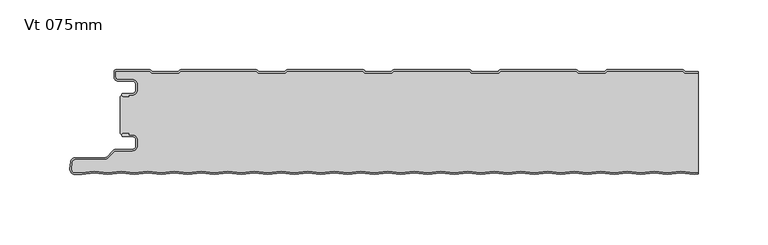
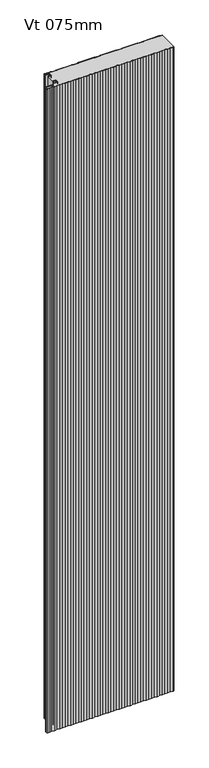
"""IFC4 building model written with IfcOpenShell, lengths in millimetres: plate geometry, KIP-MEX-KSS-1067-R19-CP-Vt-MR_SL : Vt 075mm."""

from ifc_helpers import new_model, si_unit, point, frame, frame_2d, origin, origin_with_axes, place, context, project, spatial, polyline, circle_curve, trimmed, segment, composite_curve, outline, extrude, source, transform, mapped, element, save
from ifc_brep_helpers import plane_surface, cylinder_surface, revolved_surface, advanced_brep


def vt_075mm_0a597b58(model_context):
    return source(origin(), model_context, "Body", "SolidModel", [
        advanced_brep(
        [(-204.468691, -17.0015159, 2400.0), (-205.4686883, -18.0015191, 2400.0), (-204.468691, -19.0015105, 2400.0), (-200.4684874, -19.0015105, 2400.0), (-200.4684874, -18.0015159, 2400.0), (-197.7762776, -18.0015159, 2400.0), (-194.4762819, -14.7015202, 2400.0), (-194.4762819, -10.301529, 2400.0), (-197.7762774, -7.0015335, 2400.0), (-208.1962563, -7.0015335, 2400.0), (-209.9662505, -5.2315393, 2400.0), (-209.9662505, -0.9999916, 2400.0), (-185.4659738, -0.9999916, 2400.0), (-184.0803312, -2.2002307, 2400.0), (-164.7051649, -2.2002307, 2400.0), (-163.319532, -1.0, 2400.0), (-109.2661166, -1.0, 2400.0), (-107.8804836, -2.2002307, 2400.0), (-88.5053173, -2.2002307, 2400.0), (-87.1196844, -1.0, 2400.0), (-33.066269, -1.0, 2400.0), (-31.680636, -2.2002307, 2400.0), (-12.3054697, -2.2002307, 2400.0), (-10.9198368, -1.0, 2400.0), (43.1335786, -1.0, 2400.0), (44.5192116, -2.2002307, 2400.0), (63.8943779, -2.2002307, 2400.0), (65.2800108, -1.0, 2400.0), (119.3334262, -1.0, 2400.0), (120.7190592, -2.2002307, 2400.0), (140.0942255, -2.2002307, 2400.0), (141.4798584, -1.0, 2400.0), (195.5332738, -1.0, 2400.0), (196.9189068, -2.2002307, 2400.0), (206.4999998, -2.2002307, 2400.0), (206.4999998, -1.2002307, 2400.0), (197.2917872, -1.2002307, 2400.0), (196.3007396, -0.3417885, 2400.0), (195.3841227, 0.0, 2400.0), (141.6290096, 0.0, 2400.0), (140.7123927, -0.3417885, 2400.0), (139.7213451, -1.2002307, 2400.0), (121.0919396, -1.2002307, 2400.0), (120.100892, -0.3417885, 2400.0), (119.1842751, 0.0, 2400.0), (65.429162, 0.0, 2400.0), (64.5125451, -0.3417885, 2400.0), (63.5214975, -1.2002307, 2400.0), (44.892092, -1.2002307, 2400.0), (43.9010444, -0.3417885, 2400.0), (42.9844275, 0.0, 2400.0), (-10.7706856, 0.0, 2400.0), (-11.6873025, -0.3417885, 2400.0), (-12.6783501, -1.2002307, 2400.0), (-31.3077556, -1.2002307, 2400.0), (-32.2988032, -0.3417885, 2400.0), (-33.2154201, 0.0, 2400.0), (-86.9705332, 0.0, 2400.0), (-87.8871501, -0.3417885, 2400.0), (-88.8781977, -1.2002307, 2400.0), (-107.5076032, -1.2002307, 2400.0), (-108.4986508, -0.3417885, 2400.0), (-109.4152677, 0.0, 2400.0), (-163.1703808, 0.0, 2400.0), (-164.0869977, -0.3417885, 2400.0), (-165.0780453, -1.2002307, 2400.0), (-183.7074508, -1.2002307, 2400.0), (-184.6984984, -0.3417885, 2400.0), (-185.6152067, 0.0, 2400.0), (-209.5662543, 8.4e-06, 2400.0), (-210.9662505, -1.3999878, 2400.0), (-210.9662505, -5.2315393, 2400.0), (-208.1962563, -8.0015335, 2400.0), (-197.7762774, -8.0015335, 2400.0), (-195.4762819, -10.301529, 2400.0), (-195.4762819, -14.7015202, 2400.0), (-197.7762776, -17.0015159, 2400.0), (-204.468691, -17.0015159, 0.0), (-197.7762776, -17.0015159, 0.0), (-195.4762819, -14.7015202, 0.0), (-195.4762819, -10.301529, 0.0), (-197.7762774, -8.0015335, 0.0), (-208.1962563, -8.0015335, 0.0), (-210.9662505, -5.2315393, 0.0), (-210.9662505, -1.3999878, 0.0), (-209.5662543, 8.4e-06, 0.0), (-185.6151153, 8.4e-06, 0.0), (-184.6984984, -0.3417885, 0.0), (-183.7074508, -1.2002307, 0.0), (-165.0780453, -1.2002307, 0.0), (-164.0869977, -0.3417885, 0.0), (-163.1703808, 0.0, 0.0), (-109.4152677, 0.0, 0.0), (-108.4986508, -0.3417885, 0.0), (-107.5076032, -1.2002307, 0.0), (-88.8781977, -1.2002307, 0.0), (-87.8871501, -0.3417885, 0.0), (-86.9705332, 0.0, 0.0), (-33.2154201, 0.0, 0.0), (-32.2988032, -0.3417885, 0.0), (-31.3077556, -1.2002307, 0.0), (-12.6783501, -1.2002307, 0.0), (-11.6873025, -0.3417885, 0.0), (-10.7706856, 0.0, 0.0), (42.9844275, 0.0, 0.0), (43.9010444, -0.3417885, 0.0), (44.892092, -1.2002307, 0.0), (63.5214975, -1.2002307, 0.0), (64.5125451, -0.3417885, 0.0), (65.429162, 0.0, 0.0), (119.1842751, 0.0, 0.0), (120.100892, -0.3417885, 0.0), (121.0919396, -1.2002307, 0.0), (139.7213451, -1.2002307, 0.0), (140.7123927, -0.3417885, 0.0), (141.6290096, 0.0, 0.0), (195.3841227, 0.0, 0.0), (196.3007396, -0.3417885, 0.0), (197.2917872, -1.2002307, 0.0), (206.4999998, -1.2002307, 0.0), (206.4999998, -2.2002307, 0.0), (196.9189068, -2.2002307, 0.0), (195.5332738, -1.0, 0.0), (141.4798584, -1.0, 0.0), (140.0942255, -2.2002307, 0.0), (120.7190592, -2.2002307, 0.0), (119.3334262, -1.0, 0.0), (65.2800108, -1.0, 0.0), (63.8943779, -2.2002307, 0.0), (44.5192116, -2.2002307, 0.0), (43.1335786, -1.0, 0.0), (-10.9198368, -1.0, 0.0), (-12.3054697, -2.2002307, 0.0), (-31.680636, -2.2002307, 0.0), (-33.066269, -1.0, 0.0), (-87.1196844, -1.0, 0.0), (-88.5053173, -2.2002307, 0.0), (-107.8804836, -2.2002307, 0.0), (-109.2661166, -1.0, 0.0), (-163.319532, -1.0, 0.0), (-164.7051649, -2.2002307, 0.0), (-184.0803312, -2.2002307, 0.0), (-185.4659738, -0.9999916, 0.0), (-209.9662505, -0.9999916, 0.0), (-209.9662505, -5.2315393, 0.0), (-208.1962563, -7.0015335, 0.0), (-197.7762774, -7.0015335, 0.0), (-194.4762819, -10.301529, 0.0), (-194.4762819, -14.7015202, 0.0), (-197.7762776, -18.0015159, 0.0), (-200.4684874, -18.0015159, 0.0), (-200.4684874, -19.0015105, 0.0), (-204.468691, -19.0015105, 0.0), (-205.4686882, -18.0015192, 0.0)],
        [
            (0, 1, circle_curve(frame((-204.468691, -18.0015132, 2400.0), z_axis=(0.0, 0.0, 1.0), x_axis=(1.0, 0.0, 0.0)), 0.9999973)),
            (1, 2, circle_curve(frame((-204.468691, -18.0015133, 2400.0), z_axis=(0.0, 0.0, 1.0), x_axis=(1.0, 0.0, 0.0)), 0.9999972)),
            (2, 3),
            (3, 4),
            (4, 5),
            (5, 6, circle_curve(frame((-197.7762776, -14.7015202, 2400.0), z_axis=(0.0, 0.0, 1.0), x_axis=(1.0, 0.0, 0.0)), 3.2999957)),
            (6, 7),
            (7, 8, circle_curve(frame((-197.7762774, -10.301529, 2400.0), z_axis=(0.0, 0.0, 1.0), x_axis=(1.0, 0.0, 0.0)), 3.2999955)),
            (8, 9),
            (9, 10, circle_curve(frame((-208.1962563, -5.2315393, 2400.0), z_axis=(0.0, 0.0, -1.0), x_axis=(1.0, 0.0, 0.0)), 1.7699942)),
            (10, 11),
            (11, 12),
            (12, 13),
            (13, 14),
            (14, 15),
            (15, 16),
            (16, 17),
            (17, 18),
            (18, 19),
            (19, 20),
            (20, 21),
            (21, 22),
            (22, 23),
            (23, 24),
            (24, 25),
            (25, 26),
            (26, 27),
            (27, 28),
            (28, 29),
            (29, 30),
            (30, 31),
            (31, 32),
            (32, 33),
            (33, 34),
            (34, 35),
            (35, 36),
            (36, 37),
            (37, 38, circle_curve(frame((195.3841227, -1.3999972, 2400.0), z_axis=(0.0, 0.0, 1.0), x_axis=(1.0, 0.0, 0.0)), 1.3999972)),
            (38, 39),
            (39, 40, circle_curve(frame((141.6290096, -1.3999972, 2400.0), z_axis=(0.0, 0.0, 1.0), x_axis=(1.0, 0.0, 0.0)), 1.3999972)),
            (40, 41),
            (41, 42),
            (42, 43),
            (43, 44, circle_curve(frame((119.1842751, -1.3999972, 2400.0), z_axis=(0.0, 0.0, 1.0), x_axis=(1.0, 0.0, 0.0)), 1.3999972)),
            (44, 45),
            (45, 46, circle_curve(frame((65.429162, -1.3999972, 2400.0), z_axis=(0.0, 0.0, 1.0), x_axis=(1.0, 0.0, 0.0)), 1.3999972)),
            (46, 47),
            (47, 48),
            (48, 49),
            (49, 50, circle_curve(frame((42.9844275, -1.3999972, 2400.0), z_axis=(0.0, 0.0, 1.0), x_axis=(1.0, 0.0, 0.0)), 1.3999972)),
            (50, 51),
            (51, 52, circle_curve(frame((-10.7706856, -1.3999972, 2400.0), z_axis=(0.0, 0.0, 1.0), x_axis=(1.0, 0.0, 0.0)), 1.3999972)),
            (52, 53),
            (53, 54),
            (54, 55),
            (55, 56, circle_curve(frame((-33.2154201, -1.3999972, 2400.0), z_axis=(0.0, 0.0, 1.0), x_axis=(1.0, 0.0, 0.0)), 1.3999972)),
            (56, 57),
            (57, 58, circle_curve(frame((-86.9705332, -1.3999972, 2400.0), z_axis=(0.0, 0.0, 1.0), x_axis=(1.0, 0.0, 0.0)), 1.3999972)),
            (58, 59),
            (59, 60),
            (60, 61),
            (61, 62, circle_curve(frame((-109.4152677, -1.3999972, 2400.0), z_axis=(0.0, 0.0, 1.0), x_axis=(1.0, 0.0, 0.0)), 1.3999972)),
            (62, 63),
            (63, 64, circle_curve(frame((-163.1703808, -1.3999972, 2400.0), z_axis=(0.0, 0.0, 1.0), x_axis=(1.0, 0.0, 0.0)), 1.3999972)),
            (64, 65),
            (65, 66),
            (66, 67),
            (67, 68, circle_curve(frame((-185.6151153, -1.3999972, 2400.0), z_axis=(0.0, 0.0, 1.0), x_axis=(1.0, 0.0, 0.0)), 1.3999972)),
            (68, 69),
            (69, 70, circle_curve(frame((-209.5662543, -1.3999878, 2400.0), z_axis=(0.0, 0.0, 1.0), x_axis=(1.0, 0.0, 0.0)), 1.3999962)),
            (70, 71),
            (71, 72, circle_curve(frame((-208.1962563, -5.2315393, 2400.0), z_axis=(0.0, 0.0, 1.0), x_axis=(1.0, 0.0, 0.0)), 2.7699942)),
            (72, 73),
            (73, 74, circle_curve(frame((-197.7762774, -10.301529, 2400.0), z_axis=(0.0, 0.0, -1.0), x_axis=(1.0, 0.0, 0.0)), 2.2999955)),
            (74, 75),
            (75, 76, circle_curve(frame((-197.7762776, -14.7015202, 2400.0), z_axis=(0.0, 0.0, -1.0), x_axis=(1.0, 0.0, 0.0)), 2.2999957)),
            (76, 0),
            (77, 78),
            (78, 79, circle_curve(frame((-197.7762776, -14.7015202, 0.0), z_axis=(0.0, 0.0, 1.0), x_axis=(1.0, 0.0, 0.0)), 2.2999957)),
            (79, 80),
            (80, 81, circle_curve(frame((-197.7762774, -10.301529, 0.0), z_axis=(0.0, 0.0, 1.0), x_axis=(1.0, 0.0, 0.0)), 2.2999955)),
            (81, 82),
            (82, 83, circle_curve(frame((-208.1962563, -5.2315393, 0.0), z_axis=(0.0, 0.0, -1.0), x_axis=(1.0, 0.0, 0.0)), 2.7699942)),
            (83, 84),
            (84, 85, circle_curve(frame((-209.5662543, -1.3999878, 0.0), z_axis=(0.0, 0.0, -1.0), x_axis=(1.0, 0.0, 0.0)), 1.3999962)),
            (85, 86),
            (86, 87, circle_curve(frame((-185.6151153, -1.3999972, 0.0), z_axis=(0.0, 0.0, -1.0), x_axis=(1.0, 0.0, 0.0)), 1.3999972)),
            (87, 88),
            (88, 89),
            (89, 90),
            (90, 91, circle_curve(frame((-163.1703808, -1.3999972, 0.0), z_axis=(0.0, 0.0, -1.0), x_axis=(1.0, 0.0, 0.0)), 1.3999972)),
            (91, 92),
            (92, 93, circle_curve(frame((-109.4152677, -1.3999972, 0.0), z_axis=(0.0, 0.0, -1.0), x_axis=(1.0, 0.0, 0.0)), 1.3999972)),
            (93, 94),
            (94, 95),
            (95, 96),
            (96, 97, circle_curve(frame((-86.9705332, -1.3999972, 0.0), z_axis=(0.0, 0.0, -1.0), x_axis=(1.0, 0.0, 0.0)), 1.3999972)),
            (97, 98),
            (98, 99, circle_curve(frame((-33.2154201, -1.3999972, 0.0), z_axis=(0.0, 0.0, -1.0), x_axis=(1.0, 0.0, 0.0)), 1.3999972)),
            (99, 100),
            (100, 101),
            (101, 102),
            (102, 103, circle_curve(frame((-10.7706856, -1.3999972, 0.0), z_axis=(0.0, 0.0, -1.0), x_axis=(1.0, 0.0, 0.0)), 1.3999972)),
            (103, 104),
            (104, 105, circle_curve(frame((42.9844275, -1.3999972, 0.0), z_axis=(0.0, 0.0, -1.0), x_axis=(1.0, 0.0, 0.0)), 1.3999972)),
            (105, 106),
            (106, 107),
            (107, 108),
            (108, 109, circle_curve(frame((65.429162, -1.3999972, 0.0), z_axis=(0.0, 0.0, -1.0), x_axis=(1.0, 0.0, 0.0)), 1.3999972)),
            (109, 110),
            (110, 111, circle_curve(frame((119.1842751, -1.3999972, 0.0), z_axis=(0.0, 0.0, -1.0), x_axis=(1.0, 0.0, 0.0)), 1.3999972)),
            (111, 112),
            (112, 113),
            (113, 114),
            (114, 115, circle_curve(frame((141.6290096, -1.3999972, 0.0), z_axis=(0.0, 0.0, -1.0), x_axis=(1.0, 0.0, 0.0)), 1.3999972)),
            (115, 116),
            (116, 117, circle_curve(frame((195.3841227, -1.3999972, 0.0), z_axis=(0.0, 0.0, -1.0), x_axis=(1.0, 0.0, 0.0)), 1.3999972)),
            (117, 118),
            (118, 119),
            (119, 120),
            (120, 121),
            (121, 122),
            (122, 123),
            (123, 124),
            (124, 125),
            (125, 126),
            (126, 127),
            (127, 128),
            (128, 129),
            (129, 130),
            (130, 131),
            (131, 132),
            (132, 133),
            (133, 134),
            (134, 135),
            (135, 136),
            (136, 137),
            (137, 138),
            (138, 139),
            (139, 140),
            (140, 141),
            (141, 142),
            (142, 143),
            (143, 144),
            (144, 145, circle_curve(frame((-208.1962563, -5.2315393, 0.0), z_axis=(0.0, 0.0, 1.0), x_axis=(1.0, 0.0, 0.0)), 1.7699942)),
            (145, 146),
            (146, 147, circle_curve(frame((-197.7762774, -10.301529, 0.0), z_axis=(0.0, 0.0, -1.0), x_axis=(1.0, 0.0, 0.0)), 3.2999955)),
            (147, 148),
            (148, 149, circle_curve(frame((-197.7762776, -14.7015202, 0.0), z_axis=(0.0, 0.0, -1.0), x_axis=(1.0, 0.0, 0.0)), 3.2999957)),
            (149, 150),
            (150, 151),
            (151, 152),
            (152, 153, circle_curve(frame((-204.468691, -18.0015133, 0.0), z_axis=(0.0, 0.0, -1.0), x_axis=(1.0, 0.0, 0.0)), 0.9999972)),
            (153, 77, circle_curve(frame((-204.468691, -18.0015132, 0.0), z_axis=(0.0, 0.0, -1.0), x_axis=(1.0, 0.0, 0.0)), 0.9999973)),
            (76, 78),
            (77, 0),
            (75, 79),
            (74, 80),
            (73, 81),
            (72, 82),
            (71, 83),
            (70, 84),
            (69, 85),
            (68, 86),
            (67, 87),
            (66, 88),
            (65, 89),
            (64, 90),
            (63, 91),
            (62, 92),
            (61, 93),
            (60, 94),
            (59, 95),
            (58, 96),
            (57, 97),
            (56, 98),
            (55, 99),
            (54, 100),
            (53, 101),
            (52, 102),
            (51, 103),
            (50, 104),
            (49, 105),
            (48, 106),
            (47, 107),
            (46, 108),
            (45, 109),
            (44, 110),
            (43, 111),
            (42, 112),
            (41, 113),
            (40, 114),
            (39, 115),
            (38, 116),
            (37, 117),
            (36, 118),
            (35, 119),
            (120, 34),
            (33, 121),
            (32, 122),
            (31, 123),
            (30, 124),
            (29, 125),
            (28, 126),
            (27, 127),
            (26, 128),
            (25, 129),
            (24, 130),
            (23, 131),
            (22, 132),
            (21, 133),
            (20, 134),
            (19, 135),
            (18, 136),
            (17, 137),
            (16, 138),
            (15, 139),
            (14, 140),
            (13, 141),
            (12, 142),
            (11, 143),
            (10, 144),
            (9, 145),
            (8, 146),
            (7, 147),
            (6, 148),
            (5, 149),
            (4, 150),
            (3, 151),
            (2, 152),
            (1, 153),
        ],
        [
            plane_surface(frame((326.9000002, 0.0, 2400.0), z_axis=(0.0, 0.0, 1.0), x_axis=(0.0, 1.0, 0.0))),
            plane_surface(frame((326.9000002, 0.0, 0.0), z_axis=(0.0, 0.0, -1.0), x_axis=(0.0, 1.0, 0.0))),
            plane_surface(frame((-204.468691, -17.0015159, 2400.0), z_axis=(0.0, 1.0, 0.0), x_axis=(0.0, 0.0, -1.0))),
            revolved_surface(polyline([(-195.47628189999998, -14.7015202, 0.0), (-195.47628189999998, -14.7015202, 2400.0)]), (-197.7762776, -14.7015202, 2400.0), (0.0, 0.0, -1.0)),
            plane_surface(frame((-195.4762819, -14.7015202, 2400.0), z_axis=(-1.0, 0.0, 0.0), x_axis=(0.0, 0.0, -1.0))),
            revolved_surface(polyline([(-195.4762819, -10.301529, 0.0), (-195.4762819, -10.301529, 2400.0)]), (-197.7762774, -10.301529, 2400.0), (0.0, 0.0, -1.0)),
            plane_surface(frame((-197.7762774, -8.0015335, 2400.0), z_axis=(0.0, -1.0, 0.0), x_axis=(0.0, 0.0, -1.0))),
            cylinder_surface(frame((-208.1962563, -5.2315393, 2400.0), z_axis=(0.0, 0.0, 1.0), x_axis=(1.0, 0.0, 0.0)), 2.7699942),
            plane_surface(frame((-210.9662505, -5.2315393, 2400.0), z_axis=(-1.0, 0.0, 0.0), x_axis=(0.0, 0.0, -1.0))),
            cylinder_surface(frame((-209.5662543, -1.3999878, 2400.0), z_axis=(0.0, 0.0, 1.0), x_axis=(1.0, 0.0, 0.0)), 1.3999962),
            plane_surface(frame((-209.5662543, 8.4e-06, 2400.0), z_axis=(0.0, 1.0, 0.0), x_axis=(0.0, 0.0, -1.0))),
            cylinder_surface(frame((-185.6151153, -1.3999972, 2400.0), z_axis=(0.0, 0.0, 1.0), x_axis=(1.0, 0.0, 0.0)), 1.3999972),
            plane_surface(frame((-184.6984984, -0.3417885, 2400.0), z_axis=(0.6547276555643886, 0.755864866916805, 0.0), x_axis=(0.0, 0.0, -1.0))),
            plane_surface(frame((-174.3927481, -1.2002307, 2400.0), z_axis=(0.0, 1.0, 0.0), x_axis=(0.0, 0.0, -1.0))),
            plane_surface(frame((-165.0780453, -1.2002307, 2400.0), z_axis=(-0.6547276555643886, 0.755864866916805, 0.0), x_axis=(0.0, 0.0, -1.0))),
            cylinder_surface(frame((-163.1703808, -1.3999972, 2400.0), z_axis=(0.0, 0.0, 1.0), x_axis=(1.0, 0.0, 0.0)), 1.3999972),
            plane_surface(frame((-163.1703808, 0.0, 2400.0), z_axis=(0.0, 1.0, 0.0), x_axis=(0.0, 0.0, -1.0))),
            cylinder_surface(frame((-109.4152677, -1.3999972, 2400.0), z_axis=(0.0, 0.0, 1.0), x_axis=(1.0, 0.0, 0.0)), 1.3999972),
            plane_surface(frame((-108.4986508, -0.3417885, 2400.0), z_axis=(0.6547276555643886, 0.755864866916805, 0.0), x_axis=(0.0, 0.0, -1.0))),
            plane_surface(frame((-98.1929005, -1.2002307, 2400.0), z_axis=(0.0, 1.0, 0.0), x_axis=(0.0, 0.0, -1.0))),
            plane_surface(frame((-88.8781977, -1.2002307, 2400.0), z_axis=(-0.6547276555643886, 0.755864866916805, 0.0), x_axis=(0.0, 0.0, -1.0))),
            cylinder_surface(frame((-86.9705332, -1.3999972, 2400.0), z_axis=(0.0, 0.0, 1.0), x_axis=(1.0, 0.0, 0.0)), 1.3999972),
            plane_surface(frame((-86.9705332, 0.0, 2400.0), z_axis=(0.0, 1.0, 0.0), x_axis=(0.0, 0.0, -1.0))),
            cylinder_surface(frame((-33.2154201, -1.3999972, 2400.0), z_axis=(0.0, 0.0, 1.0), x_axis=(1.0, 0.0, 0.0)), 1.3999972),
            plane_surface(frame((-32.2988032, -0.3417885, 2400.0), z_axis=(0.6547276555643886, 0.755864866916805, 0.0), x_axis=(0.0, 0.0, -1.0))),
            plane_surface(frame((-21.9930529, -1.2002307, 2400.0), z_axis=(0.0, 1.0, 0.0), x_axis=(0.0, 0.0, -1.0))),
            plane_surface(frame((-12.6783501, -1.2002307, 2400.0), z_axis=(-0.6547276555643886, 0.755864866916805, 0.0), x_axis=(0.0, 0.0, -1.0))),
            cylinder_surface(frame((-10.7706856, -1.3999972, 2400.0), z_axis=(0.0, 0.0, 1.0), x_axis=(1.0, 0.0, 0.0)), 1.3999972),
            plane_surface(frame((-10.7706856, 0.0, 2400.0), z_axis=(0.0, 1.0, 0.0), x_axis=(0.0, 0.0, -1.0))),
            cylinder_surface(frame((42.9844275, -1.3999972, 2400.0), z_axis=(0.0, 0.0, 1.0), x_axis=(1.0, 0.0, 0.0)), 1.3999972),
            plane_surface(frame((43.9010444, -0.3417885, 2400.0), z_axis=(0.6547276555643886, 0.755864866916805, 0.0), x_axis=(0.0, 0.0, -1.0))),
            plane_surface(frame((54.2067947, -1.2002307, 2400.0), z_axis=(0.0, 1.0, 0.0), x_axis=(0.0, 0.0, -1.0))),
            plane_surface(frame((63.5214975, -1.2002307, 2400.0), z_axis=(-0.6547276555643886, 0.755864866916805, 0.0), x_axis=(0.0, 0.0, -1.0))),
            cylinder_surface(frame((65.429162, -1.3999972, 2400.0), z_axis=(0.0, 0.0, 1.0), x_axis=(1.0, 0.0, 0.0)), 1.3999972),
            plane_surface(frame((65.429162, 0.0, 2400.0), z_axis=(0.0, 1.0, 0.0), x_axis=(0.0, 0.0, -1.0))),
            cylinder_surface(frame((119.1842751, -1.3999972, 2400.0), z_axis=(0.0, 0.0, 1.0), x_axis=(1.0, 0.0, 0.0)), 1.3999972),
            plane_surface(frame((120.100892, -0.3417885, 2400.0), z_axis=(0.6547276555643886, 0.755864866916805, 0.0), x_axis=(0.0, 0.0, -1.0))),
            plane_surface(frame((130.4066423, -1.2002307, 2400.0), z_axis=(0.0, 1.0, 0.0), x_axis=(0.0, 0.0, -1.0))),
            plane_surface(frame((139.7213451, -1.2002307, 2400.0), z_axis=(-0.6547276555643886, 0.755864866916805, 0.0), x_axis=(0.0, 0.0, -1.0))),
            cylinder_surface(frame((141.6290096, -1.3999972, 2400.0), z_axis=(0.0, 0.0, 1.0), x_axis=(1.0, 0.0, 0.0)), 1.3999972),
            plane_surface(frame((141.6290096, 0.0, 2400.0), z_axis=(0.0, 1.0, 0.0), x_axis=(0.0, 0.0, -1.0))),
            cylinder_surface(frame((195.3841227, -1.3999972, 2400.0), z_axis=(0.0, 0.0, 1.0), x_axis=(1.0, 0.0, 0.0)), 1.3999972),
            plane_surface(frame((196.3007396, -0.3417885, 2400.0), z_axis=(0.6547276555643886, 0.755864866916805, 0.0), x_axis=(0.0, 0.0, -1.0))),
            plane_surface(frame((206.6064899, -1.2002307, 2400.0), z_axis=(0.0, 1.0, 0.0), x_axis=(0.0, 0.0, -1.0))),
            plane_surface(frame((216.2940731, -2.2002307, 2400.0), z_axis=(0.0, -1.0, 0.0), x_axis=(0.0, 0.0, -1.0))),
            plane_surface(frame((196.9189068, -2.2002307, 2400.0), z_axis=(-0.6547276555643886, -0.755864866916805, 0.0), x_axis=(0.0, 0.0, -1.0))),
            plane_surface(frame((195.5332738, -1.0, 2400.0), z_axis=(0.0, -1.0, 0.0), x_axis=(0.0, 0.0, -1.0))),
            plane_surface(frame((141.4798584, -1.0, 2400.0), z_axis=(0.6547276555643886, -0.755864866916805, 0.0), x_axis=(0.0, 0.0, -1.0))),
            plane_surface(frame((140.0942255, -2.2002307, 2400.0), z_axis=(0.0, -1.0, 0.0), x_axis=(0.0, 0.0, -1.0))),
            plane_surface(frame((120.7190592, -2.2002307, 2400.0), z_axis=(-0.6547276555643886, -0.755864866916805, 0.0), x_axis=(0.0, 0.0, -1.0))),
            plane_surface(frame((119.3334262, -1.0, 2400.0), z_axis=(0.0, -1.0, 0.0), x_axis=(0.0, 0.0, -1.0))),
            plane_surface(frame((65.2800108, -1.0, 2400.0), z_axis=(0.6547276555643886, -0.755864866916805, 0.0), x_axis=(0.0, 0.0, -1.0))),
            plane_surface(frame((63.8943779, -2.2002307, 2400.0), z_axis=(0.0, -1.0, 0.0), x_axis=(0.0, 0.0, -1.0))),
            plane_surface(frame((44.5192116, -2.2002307, 2400.0), z_axis=(-0.6547276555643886, -0.755864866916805, 0.0), x_axis=(0.0, 0.0, -1.0))),
            plane_surface(frame((43.1335786, -1.0, 2400.0), z_axis=(0.0, -1.0, 0.0), x_axis=(0.0, 0.0, -1.0))),
            plane_surface(frame((-10.9198368, -1.0, 2400.0), z_axis=(0.6547276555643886, -0.755864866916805, 0.0), x_axis=(0.0, 0.0, -1.0))),
            plane_surface(frame((-12.3054697, -2.2002307, 2400.0), z_axis=(0.0, -1.0, 0.0), x_axis=(0.0, 0.0, -1.0))),
            plane_surface(frame((-31.680636, -2.2002307, 2400.0), z_axis=(-0.6547276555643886, -0.755864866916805, 0.0), x_axis=(0.0, 0.0, -1.0))),
            plane_surface(frame((-33.066269, -1.0, 2400.0), z_axis=(0.0, -1.0, 0.0), x_axis=(0.0, 0.0, -1.0))),
            plane_surface(frame((-87.1196844, -1.0, 2400.0), z_axis=(0.6547276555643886, -0.755864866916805, 0.0), x_axis=(0.0, 0.0, -1.0))),
            plane_surface(frame((-88.5053173, -2.2002307, 2400.0), z_axis=(0.0, -1.0, 0.0), x_axis=(0.0, 0.0, -1.0))),
            plane_surface(frame((-107.8804836, -2.2002307, 2400.0), z_axis=(-0.6547276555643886, -0.755864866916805, 0.0), x_axis=(0.0, 0.0, -1.0))),
            plane_surface(frame((-109.2661166, -1.0, 2400.0), z_axis=(0.0, -1.0, 0.0), x_axis=(0.0, 0.0, -1.0))),
            plane_surface(frame((-163.319532, -1.0, 2400.0), z_axis=(0.6547276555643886, -0.755864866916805, 0.0), x_axis=(0.0, 0.0, -1.0))),
            plane_surface(frame((-164.7051649, -2.2002307, 2400.0), z_axis=(0.0, -1.0, 0.0), x_axis=(0.0, 0.0, -1.0))),
            plane_surface(frame((-184.0803312, -2.2002307, 2400.0), z_axis=(-0.6547276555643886, -0.755864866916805, 0.0), x_axis=(0.0, 0.0, -1.0))),
            plane_surface(frame((-185.4659738, -0.9999916, 2400.0), z_axis=(0.0, -1.0, 0.0), x_axis=(0.0, 0.0, -1.0))),
            plane_surface(frame((-209.9662505, -0.9999916, 2400.0), z_axis=(1.0, 0.0, 0.0), x_axis=(0.0, 0.0, -1.0))),
            revolved_surface(polyline([(-206.42626209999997, -5.2315393, 0.0), (-206.42626209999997, -5.2315393, 2400.0)]), (-208.1962563, -5.2315393, 2400.0), (0.0, 0.0, -1.0)),
            plane_surface(frame((-208.1962563, -7.0015335, 2400.0), z_axis=(0.0, 1.0, 0.0), x_axis=(0.0, 0.0, -1.0))),
            cylinder_surface(frame((-197.7762774, -10.301529, 2400.0), z_axis=(0.0, 0.0, 1.0), x_axis=(1.0, 0.0, 0.0)), 3.2999955),
            plane_surface(frame((-194.4762819, -10.301529, 2400.0), z_axis=(1.0, 0.0, 0.0), x_axis=(0.0, 0.0, -1.0))),
            cylinder_surface(frame((-197.7762776, -14.7015202, 2400.0), z_axis=(0.0, 0.0, 1.0), x_axis=(1.0, 0.0, 0.0)), 3.2999957),
            plane_surface(frame((-197.7762776, -18.0015159, 2400.0), z_axis=(0.0, -1.0, 0.0), x_axis=(0.0, 0.0, -1.0))),
            plane_surface(frame((-200.4684874, -18.0015159, 2400.0), z_axis=(1.0, 0.0, 0.0), x_axis=(0.0, 0.0, -1.0))),
            plane_surface(frame((-200.4684874, -19.0015105, 2400.0), z_axis=(0.0, -1.0, 0.0), x_axis=(0.0, 0.0, -1.0))),
            cylinder_surface(frame((-204.468691, -18.0015133, 2400.0), z_axis=(0.0, 0.0, 1.0), x_axis=(1.0, 0.0, 0.0)), 0.9999972),
            cylinder_surface(frame((-204.468691, -18.0015132, 2400.0), z_axis=(0.0, 0.0, 1.0), x_axis=(1.0, 0.0, 0.0)), 0.9999973),
            plane_surface(frame((206.4999998, -85.0, 2400.0), z_axis=(1.0, 0.0, 0.0), x_axis=(0.0, 0.0, -1.0))),
        ],
        [
            (0, [[1, 2, 3, 4, 5, 6, 7, 8, 9, 10, 11, 12, 13, 14, 15, 16, 17, 18, 19, 20, 21, 22, 23, 24, 25, 26, 27, 28, 29, 30, 31, 32, 33, 34, 35, 36, 37, 38, 39, 40, 41, 42, 43, 44, 45, 46, 47, 48, 49, 50, 51, 52, 53, 54, 55, 56, 57, 58, 59, 60, 61, 62, 63, 64, 65, 66, 67, 68, 69, 70, 71, 72, 73, 74, 75, 76, 77]]),
            (1, [[78, 79, 80, 81, 82, 83, 84, 85, 86, 87, 88, 89, 90, 91, 92, 93, 94, 95, 96, 97, 98, 99, 100, 101, 102, 103, 104, 105, 106, 107, 108, 109, 110, 111, 112, 113, 114, 115, 116, 117, 118, 119, 120, 121, 122, 123, 124, 125, 126, 127, 128, 129, 130, 131, 132, 133, 134, 135, 136, 137, 138, 139, 140, 141, 142, 143, 144, 145, 146, 147, 148, 149, 150, 151, 152, 153, 154]]),
            (2, [[155, -78, 156, -77]]),
            (3, [[157, -79, -155, -76]]),
            (4, [[158, -80, -157, -75]]),
            (5, [[159, -81, -158, -74]]),
            (6, [[160, -82, -159, -73]]),
            (7, [[161, -83, -160, -72]]),
            (8, [[162, -84, -161, -71]]),
            (9, [[163, -85, -162, -70]]),
            (10, [[164, -86, -163, -69]]),
            (11, [[165, -87, -164, -68]]),
            (12, [[166, -88, -165, -67]]),
            (13, [[167, -89, -166, -66]]),
            (14, [[168, -90, -167, -65]]),
            (15, [[169, -91, -168, -64]]),
            (16, [[170, -92, -169, -63]]),
            (17, [[171, -93, -170, -62]]),
            (18, [[172, -94, -171, -61]]),
            (19, [[173, -95, -172, -60]]),
            (20, [[174, -96, -173, -59]]),
            (21, [[175, -97, -174, -58]]),
            (22, [[176, -98, -175, -57]]),
            (23, [[177, -99, -176, -56]]),
            (24, [[178, -100, -177, -55]]),
            (25, [[179, -101, -178, -54]]),
            (26, [[180, -102, -179, -53]]),
            (27, [[181, -103, -180, -52]]),
            (28, [[182, -104, -181, -51]]),
            (29, [[183, -105, -182, -50]]),
            (30, [[184, -106, -183, -49]]),
            (31, [[185, -107, -184, -48]]),
            (32, [[186, -108, -185, -47]]),
            (33, [[187, -109, -186, -46]]),
            (34, [[188, -110, -187, -45]]),
            (35, [[189, -111, -188, -44]]),
            (36, [[190, -112, -189, -43]]),
            (37, [[191, -113, -190, -42]]),
            (38, [[192, -114, -191, -41]]),
            (39, [[193, -115, -192, -40]]),
            (40, [[194, -116, -193, -39]]),
            (41, [[195, -117, -194, -38]]),
            (42, [[196, -118, -195, -37]]),
            (43, [[-36, 197, -119, -196]]),
            (44, [[-121, 198, -34, 199]]),
            (45, [[200, -122, -199, -33]]),
            (46, [[201, -123, -200, -32]]),
            (47, [[202, -124, -201, -31]]),
            (48, [[203, -125, -202, -30]]),
            (49, [[204, -126, -203, -29]]),
            (50, [[205, -127, -204, -28]]),
            (51, [[206, -128, -205, -27]]),
            (52, [[207, -129, -206, -26]]),
            (53, [[208, -130, -207, -25]]),
            (54, [[209, -131, -208, -24]]),
            (55, [[210, -132, -209, -23]]),
            (56, [[211, -133, -210, -22]]),
            (57, [[212, -134, -211, -21]]),
            (58, [[213, -135, -212, -20]]),
            (59, [[214, -136, -213, -19]]),
            (60, [[215, -137, -214, -18]]),
            (61, [[216, -138, -215, -17]]),
            (62, [[217, -139, -216, -16]]),
            (63, [[218, -140, -217, -15]]),
            (64, [[219, -141, -218, -14]]),
            (65, [[220, -142, -219, -13]]),
            (66, [[221, -143, -220, -12]]),
            (67, [[222, -144, -221, -11]]),
            (68, [[223, -145, -222, -10]]),
            (69, [[224, -146, -223, -9]]),
            (70, [[225, -147, -224, -8]]),
            (71, [[226, -148, -225, -7]]),
            (72, [[227, -149, -226, -6]]),
            (73, [[228, -150, -227, -5]]),
            (74, [[229, -151, -228, -4]]),
            (75, [[230, -152, -229, -3]]),
            (76, [[231, -153, -230, -2]]),
            (77, [[-156, -154, -231, -1]]),
            (78, [[-198, -120, -197, -35]]),
        ],
    ),
        extrude(outline(composite_curve([segment(polyline([(-215.4442791, -75.0), (-224.96926, -73.9411849), (-234.2447635, -74.9722676), (-238.9498353, -74.9722676)]), True, "CONTINUOUS"), segment(trimmed(circle_curve(frame_2d((-238.9521993, -71.4022755)), 3.5699929), [point((-238.9498353, -74.9722676))], [point((-242.5086073, -71.0911302))], False, "CARTESIAN"), True, "CONTINUOUS"), segment(polyline([(-242.5086073, -71.0911302), (-242.0690674, -66.0671659)]), True, "CONTINUOUS"), segment(trimmed(circle_curve(frame_2d((-238.4198391, -66.677967)), 3.6999926), [point((-242.0690674, -66.0671659))], [point((-238.4198391, -62.9779744))], False, "CARTESIAN"), True, "CONTINUOUS"), segment(polyline([(-238.4198391, -62.9779744), (-217.2773995, -62.9779744)]), True, "CONTINUOUS"), segment(trimmed(circle_curve(frame_2d((-217.2773995, -61.677977)), 1.2999974), [point((-217.2773995, -62.9779744))], [point((-216.3581626, -62.597214))], True, "CARTESIAN"), True, "CONTINUOUS"), segment(polyline([(-216.3581626, -62.597214), (-211.5297451, -57.7687965)]), True, "CONTINUOUS"), segment(trimmed(circle_curve(frame_2d((-209.6205606, -59.677981)), 2.6999946), [point((-211.5297451, -57.7687965))], [point((-209.6205606, -56.9779864))], False, "CARTESIAN"), True, "CONTINUOUS"), segment(polyline([(-209.6205606, -56.9779864), (-197.8096715, -56.9779864)]), True, "CONTINUOUS"), segment(trimmed(circle_curve(frame_2d((-197.8096715, -54.6279911)), 2.3499953), [point((-197.8096715, -56.9779864))], [point((-195.4596762, -54.6279911))], True, "CARTESIAN"), True, "CONTINUOUS"), segment(polyline([(-195.4596762, -54.6279911), (-195.4596762, -50.2279999)]), True, "CONTINUOUS"), segment(trimmed(circle_curve(frame_2d((-197.8096715, -50.2279999)), 2.3499953), [point((-195.4596762, -50.2279999))], [point((-197.8096715, -47.8780046))], True, "CARTESIAN"), True, "CONTINUOUS"), segment(polyline([(-197.8096715, -47.8780046), (-204.3289777, -47.8780046)]), True, "CONTINUOUS"), segment(trimmed(circle_curve(frame_2d((-204.2686906, -46.6795224)), 1.1999976), [point((-204.3289777, -47.8780046))], [point((-205.4682903, -46.6486225))], False, "CARTESIAN"), True, "CONTINUOUS"), segment(trimmed(circle_curve(frame_2d((-204.2686906, -46.6795224)), 1.1999976), [point((-205.4682903, -46.6486225))], [point((-204.267176, -45.4795257))], False, "CARTESIAN"), True, "CONTINUOUS"), segment(polyline([(-204.267176, -45.4795257), (-200.5087826, -45.4795257), (-200.5087826, -46.8780046), (-197.8096715, -46.8780046)]), True, "CONTINUOUS"), segment(trimmed(circle_curve(frame_2d((-197.8096715, -50.2279999)), 3.3499953), [point((-197.8096715, -46.8780046))], [point((-194.4596762, -50.2279999))], False, "CARTESIAN"), True, "CONTINUOUS"), segment(polyline([(-194.4596762, -50.2279999), (-194.4596762, -54.6279911)]), True, "CONTINUOUS"), segment(trimmed(circle_curve(frame_2d((-197.8096715, -54.6279911)), 3.3499953), [point((-194.4596762, -54.6279911))], [point((-197.8096715, -57.9779864))], False, "CARTESIAN"), True, "CONTINUOUS"), segment(polyline([(-197.8096715, -57.9779864), (-209.6205606, -57.9779864)]), True, "CONTINUOUS"), segment(trimmed(circle_curve(frame_2d((-209.6205606, -59.677981)), 1.6999946), [point((-209.6205606, -57.9779864))], [point((-210.8226383, -58.4759033))], True, "CARTESIAN"), True, "CONTINUOUS"), segment(polyline([(-210.8226383, -58.4759033), (-215.6510558, -63.3043208)]), True, "CONTINUOUS"), segment(trimmed(circle_curve(frame_2d((-217.2773995, -61.677977)), 2.2999974), [point((-215.6510558, -63.3043208))], [point((-217.2773995, -63.9779744))], False, "CARTESIAN"), True, "CONTINUOUS"), segment(polyline([(-217.2773995, -63.9779744), (-238.4198391, -63.9779744)]), True, "CONTINUOUS"), segment(trimmed(circle_curve(frame_2d((-238.4198391, -66.677967)), 2.6999926), [point((-238.4198391, -63.9779744))], [point((-241.0765683, -66.1965632))], True, "CARTESIAN"), True, "CONTINUOUS"), segment(polyline([(-241.0765683, -66.1965632), (-241.5124126, -71.1782859)]), True, "CONTINUOUS"), segment(trimmed(circle_curve(frame_2d((-238.9521993, -71.4022755)), 2.5699929), [point((-241.5124126, -71.1782859))], [point((-238.9501935, -73.9722676))], True, "CARTESIAN"), True, "CONTINUOUS"), segment(polyline([(-238.9501935, -73.9722676), (-234.3001738, -73.9722676), (-224.96926, -72.9350254), (-215.4442791, -73.9938405), (-205.9192981, -72.9350254), (-196.3943172, -73.9938405), (-186.8693362, -72.9350254), (-177.3443553, -73.9938405), (-167.8193743, -72.9350254), (-158.2943934, -73.9938405), (-148.7694124, -72.9350254), (-139.2444315, -73.9938405), (-129.7194505, -72.9350254), (-120.1944696, -73.9938405), (-110.6694886, -72.9350254), (-101.1445077, -73.9938405), (-91.6195267, -72.9350254), (-82.0945458, -73.9938405), (-72.5695648, -72.9350254), (-63.0445839, -73.9938405), (-53.5196029, -72.9350254), (-43.994622, -73.9938405), (-34.469641, -72.9350254), (-24.9446601, -73.9938405), (-15.4196791, -72.9350254), (-5.8946982, -73.9938405), (3.6302828, -72.9350254), (13.1552637, -73.9938405), (22.6802447, -72.9350254), (32.2052256, -73.9938405), (41.7302066, -72.9350254), (51.2551875, -73.9938405), (60.7801685, -72.9350254), (70.3051494, -73.9938405), (79.8301304, -72.9350254), (89.3551113, -73.9938405), (98.8800923, -72.9350254), (108.4050732, -73.9938405), (117.9300542, -72.9350254), (127.4550351, -73.9938405), (136.9800161, -72.9350254), (146.504997, -73.9938405), (156.029978, -72.9350254), (165.5549589, -73.9938405), (175.0799399, -72.9350254), (184.6049208, -73.9938405), (194.1299018, -72.9350254), (203.6548827, -73.9938405), (206.4999998, -73.6775718), (206.4999998, -74.6837313), (203.6548827, -75.0), (194.1299018, -73.9411849), (184.6049208, -75.0), (175.0799399, -73.9411849), (165.5549589, -75.0), (156.029978, -73.9411849), (146.504997, -75.0), (136.9800161, -73.9411849), (127.4550351, -75.0), (117.9300542, -73.9411849), (108.4050732, -75.0), (98.8800923, -73.9411849), (89.3551113, -75.0), (79.8301304, -73.9411849), (70.3051494, -75.0), (60.7801685, -73.9411849), (51.2551875, -75.0), (41.7302066, -73.9411849), (32.2052256, -75.0), (22.6802447, -73.9411849), (13.1552637, -75.0), (3.6302828, -73.9411849), (-5.8946982, -75.0), (-15.4196791, -73.9411849), (-24.9446601, -75.0), (-34.469641, -73.9411849), (-43.994622, -75.0), (-53.5196029, -73.9411849), (-63.0445839, -75.0), (-72.5695648, -73.9411849), (-82.0945458, -75.0), (-91.6195267, -73.9411849), (-101.1445077, -75.0), (-110.6694886, -73.9411849), (-120.1944696, -75.0), (-129.7194505, -73.9411849), (-139.2444315, -75.0), (-148.7694124, -73.9411849), (-158.2943934, -75.0), (-167.8193743, -73.9411849), (-177.3443553, -75.0), (-186.8693362, -73.9411849), (-196.3943172, -75.0), (-205.9192981, -73.9411849), (-215.4442791, -75.0)]), True, "CONTINUOUS")], self_intersect=False)), origin_with_axes(), (0.0, 0.0, 1.0), 2400.0),
        extrude(outline(composite_curve([segment(trimmed(circle_curve(frame_2d((-197.8096715, -50.2341594)), 3.3499953), [point((-194.4596762, -50.2341594))], [point((-197.8096715, -46.8841641))], True, "CARTESIAN"), True, "CONTINUOUS"), segment(polyline([(-197.8096715, -46.8841641), (-200.5087826, -46.8841641), (-200.5087826, -45.4856852), (-204.267176, -45.4856852)]), True, "CONTINUOUS"), segment(trimmed(circle_curve(frame_2d((-204.2686906, -46.6856819)), 1.1999976), [point((-204.267176, -45.4856852))], [point((-205.4682903, -46.654782))], True, "CARTESIAN"), True, "CONTINUOUS"), segment(polyline([(-205.4682903, -46.654782), (-206.4999998, -45.6230724), (-206.4999998, -19.0328308), (-205.4686882, -18.0015192)]), True, "CONTINUOUS"), segment(trimmed(circle_curve(frame_2d((-204.468691, -18.0015133)), 0.9999972), [point((-205.4686882, -18.0015192))], [point((-204.468691, -19.0015105))], True, "CARTESIAN"), True, "CONTINUOUS"), segment(polyline([(-204.468691, -19.0015105), (-200.4684873, -19.0015105), (-200.4684873, -18.0015159), (-197.7762775, -18.0015159)]), True, "CONTINUOUS"), segment(trimmed(circle_curve(frame_2d((-197.7762775, -14.7015202)), 3.2999957), [point((-197.7762775, -18.0015159))], [point((-194.4762818, -14.7015202))], True, "CARTESIAN"), True, "CONTINUOUS"), segment(polyline([(-194.4762818, -14.7015202), (-194.4762818, -10.301529)]), True, "CONTINUOUS"), segment(trimmed(circle_curve(frame_2d((-197.7762777, -10.301529)), 3.2999959), [point((-194.4762818, -10.301529))], [point((-197.7762777, -7.0015331))], True, "CARTESIAN"), True, "CONTINUOUS"), segment(polyline([(-197.7762777, -7.0015331), (-208.1962562, -7.0015331)]), True, "CONTINUOUS"), segment(trimmed(circle_curve(frame_2d((-208.1962562, -5.2315389)), 1.7699942), [point((-208.1962562, -7.0015331))], [point((-209.9662504, -5.2315389))], False, "CARTESIAN"), True, "CONTINUOUS"), segment(polyline([(-209.9662504, -5.2315389), (-209.9662504, -0.9999916), (-185.4659738, -0.9999916), (-184.0803312, -2.2002307), (-164.7051649, -2.2002307), (-163.3195319, -1.0), (-109.2661165, -1.0), (-107.8804836, -2.2002307), (-88.5053173, -2.2002307), (-87.1196843, -1.0), (-33.0662689, -1.0), (-31.680636, -2.2002307), (-12.3054697, -2.2002307), (-10.9198367, -1.0), (43.1335787, -1.0), (44.5192116, -2.2002307), (63.8943779, -2.2002307), (65.2800109, -1.0), (119.3334263, -1.0), (120.7190592, -2.2002307), (140.0942255, -2.2002307), (141.4798585, -1.0), (195.5332739, -1.0), (196.9189068, -2.2002307), (206.4999998, -2.2002307), (206.4999998, -73.6837313), (203.6548827, -74.0), (194.1299018, -72.9411849), (184.6049208, -74.0), (175.0799399, -72.9411849), (165.5549589, -74.0), (156.029978, -72.9411849), (146.504997, -74.0), (136.9800161, -72.9411849), (127.4550351, -74.0), (117.9300542, -72.9411849), (108.4050732, -74.0), (98.8800923, -72.9411849), (89.3551113, -74.0), (79.8301304, -72.9411849), (70.3051494, -74.0), (60.7801685, -72.9411849), (51.2551875, -74.0), (41.7302066, -72.9411849), (32.2052256, -74.0), (22.6802447, -72.9411849), (13.1552637, -74.0), (3.6302828, -72.9411849), (-5.8946982, -74.0), (-15.4196791, -72.9411849), (-24.9446601, -74.0), (-34.469641, -72.9411849), (-43.994622, -74.0), (-53.5196029, -72.9411849), (-63.0445839, -74.0), (-72.5695648, -72.9411849), (-82.0945458, -74.0), (-91.6195267, -72.9411849), (-101.1445077, -74.0), (-110.6694886, -72.9411849), (-120.1944696, -74.0), (-129.7194505, -72.9411849), (-139.2444315, -74.0), (-148.7694124, -72.9411849), (-158.2943934, -74.0), (-167.8193743, -72.9411849), (-177.3443553, -74.0), (-186.8693362, -72.9411849), (-196.3943172, -74.0), (-205.9192981, -72.9411849), (-215.4442791, -74.0), (-224.96926, -72.9411849), (-234.3001738, -73.9784271), (-238.9501935, -73.9784271)]), True, "CONTINUOUS"), segment(trimmed(circle_curve(frame_2d((-238.9521993, -71.4084351)), 2.5699929), [point((-238.9501935, -73.9784271))], [point((-241.5124126, -71.1844454))], False, "CARTESIAN"), True, "CONTINUOUS"), segment(polyline([(-241.5124126, -71.1844454), (-241.0765683, -66.2027227)]), True, "CONTINUOUS"), segment(trimmed(circle_curve(frame_2d((-238.4198391, -66.6841265)), 2.6999926), [point((-241.0765683, -66.2027227))], [point((-238.4198391, -63.9841339))], False, "CARTESIAN"), True, "CONTINUOUS"), segment(polyline([(-238.4198391, -63.9841339), (-217.2773995, -63.9841339)]), True, "CONTINUOUS"), segment(trimmed(circle_curve(frame_2d((-217.2773995, -61.6841365)), 2.2999974), [point((-217.2773995, -63.9841339))], [point((-215.6510558, -63.3104803))], True, "CARTESIAN"), True, "CONTINUOUS"), segment(polyline([(-215.6510558, -63.3104803), (-210.8226383, -58.4820628)]), True, "CONTINUOUS"), segment(trimmed(circle_curve(frame_2d((-209.6205606, -59.6841405)), 1.6999946), [point((-210.8226383, -58.4820628))], [point((-209.6205606, -57.9841459))], False, "CARTESIAN"), True, "CONTINUOUS"), segment(polyline([(-209.6205606, -57.9841459), (-197.8096715, -57.9841459)]), True, "CONTINUOUS"), segment(trimmed(circle_curve(frame_2d((-197.8096715, -54.6341506)), 3.3499953), [point((-197.8096715, -57.9841459))], [point((-194.4596762, -54.6341506))], True, "CARTESIAN"), True, "CONTINUOUS"), segment(polyline([(-194.4596762, -54.6341506), (-194.4596762, -50.2341594)]), True, "CONTINUOUS")], self_intersect=False)), origin_with_axes(), (0.0, 0.0, 1.0), 2400.0),
    ])


if __name__ == "__main__":
    model = new_model("IFC4")
    model_context = context("Model", 3, world=origin())
    ifc_project = project(units=[si_unit("LENGTHUNIT", "METRE", prefix="MILLI")], contexts=[model_context])
    site = spatial("IfcSite", under=ifc_project)
    building = spatial("IfcBuilding", under=site)
    placement = place(None, origin())
    vt_075mm_shape = vt_075mm_0a597b58(model_context)
    element("IfcPlate", 1, ObjectType="KIP-MEX-KSS-1067-R19-CP-Vt-MR_SL : Vt 075mm", at=placement, inside=building, context=model_context, shape_type="MappedRepresentation", body=[
        mapped(vt_075mm_shape, transform((0.0, 0.0, 0.0), x_axis=(1.0, 0.0, 0.0), y_axis=(0.0, 1.0, 0.0), z_axis=(0.0, 0.0, 1.0))),
    ])
    save(model, "model.ifc")
